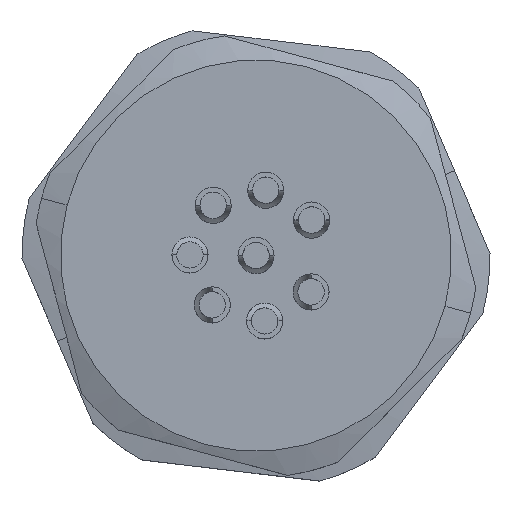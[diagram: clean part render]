
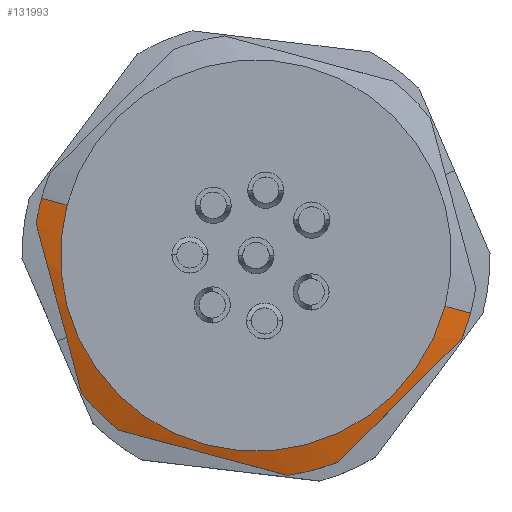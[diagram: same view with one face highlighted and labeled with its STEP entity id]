
A CAD part, top view. The second image highlights one B-rep face of the part: STEP entity #131993.
In plain terms, the highlighted conical face has half-angle 70 degrees and reference radius 9.25 mm.
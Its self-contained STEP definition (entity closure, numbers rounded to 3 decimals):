
#4564 = CARTESIAN_POINT ( 'NONE',  ( 0.41, 9.4, -0.225 ) ) ;
#6446 = CARTESIAN_POINT ( 'NONE',  ( 18.185, 6.856, -0.4 ) ) ;
#9441 = DIRECTION ( 'NONE',  ( 0., 0., -1. ) ) ;
#9458 = DIRECTION ( 'NONE',  ( -0.966, 0.259, 0. ) ) ;
#11381 = LINE ( 'NONE', #248910, #112795 ) ;
#11512 = B_SPLINE_CURVE_WITH_KNOTS ( 'NONE', 3,
 ( #250890, #28041, #49335, #141538, #190094 ),
 .UNSPECIFIED., .F., .F.,
 ( 4, 1, 4 ),
 ( 0., 0.004, 0.007 ),
 .UNSPECIFIED. ) ;
#28041 = CARTESIAN_POINT ( 'NONE',  ( 13.54, 1.52, -0.225 ) ) ;
#30860 = CARTESIAN_POINT ( 'NONE',  ( 0.095, 10.574, -0.4 ) ) ;
#31753 = DIRECTION ( 'NONE',  ( 0.908, -0.243, -0.342 ) ) ;
#33636 = EDGE_LOOP ( 'NONE', ( #78379, #95884, #137025, #137950, #94376, #92648, #153563, #67556, #57737, #236737 ) ) ;
#35326 = CARTESIAN_POINT ( 'NONE',  ( 8.231, 0.723, -0.127 ) ) ;
#35675 = CARTESIAN_POINT ( 'NONE',  ( 9.25, 9.25, 0. ) ) ;
#38883 = CARTESIAN_POINT ( 'NONE',  ( 17.84, 5.82, -0.4 ) ) ;
#39329 = CARTESIAN_POINT ( 'NONE',  ( 9.25, 9.25, -0.4 ) ) ;
#39941 = VERTEX_POINT ( 'NONE', #59843 ) ;
#49335 = CARTESIAN_POINT ( 'NONE',  ( 15.26, 3.24, -0.029 ) ) ;
#57737 = ORIENTED_EDGE ( 'NONE', *, *, #243290, .T. ) ;
#59608 = CARTESIAN_POINT ( 'NONE',  ( 4.695, 1.671, -0.226 ) ) ;
#59843 = CARTESIAN_POINT ( 'NONE',  ( 1.377, 11.36, 0. ) ) ;
#61593 = CARTESIAN_POINT ( 'NONE',  ( 10.574, 0.095, -0.4 ) ) ;
#67556 = ORIENTED_EDGE ( 'NONE', *, *, #119165, .T. ) ;
#72499 = CARTESIAN_POINT ( 'NONE',  ( 18.185, 6.856, -0.4 ) ) ;
#73370 = AXIS2_PLACEMENT_3D ( 'NONE', #175835, #172895, #291208 ) ;
#73911 = EDGE_CURVE ( 'NONE', #142628, #157995, #152717, .T. ) ;
#77452 = CARTESIAN_POINT ( 'NONE',  ( 1.984, 3.526, -0.4 ) ) ;
#78379 = ORIENTED_EDGE ( 'NONE', *, *, #264183, .F. ) ;
#81284 = CARTESIAN_POINT ( 'NONE',  ( 9.25, 9.25, -0.4 ) ) ;
#82920 = CARTESIAN_POINT ( 'NONE',  ( 9.406, 0.408, -0.226 ) ) ;
#84963 = DIRECTION ( 'NONE',  ( 0.259, 0.966, 0. ) ) ;
#89606 = CARTESIAN_POINT ( 'NONE',  ( 17.123, 7.14, 0. ) ) ;
#89615 = CARTESIAN_POINT ( 'NONE',  ( 0.095, 10.574, -0.4 ) ) ;
#92648 = ORIENTED_EDGE ( 'NONE', *, *, #240692, .T. ) ;
#94376 = ORIENTED_EDGE ( 'NONE', *, *, #73911, .T. ) ;
#94681 = AXIS2_PLACEMENT_3D ( 'NONE', #81284, #9441, #194771 ) ;
#95884 = ORIENTED_EDGE ( 'NONE', *, *, #300157, .F. ) ;
#101505 = VECTOR ( 'NONE', #31753, 1000. ) ;
#104017 = DIRECTION ( 'NONE',  ( 0.259, 0.966, 0. ) ) ;
#104477 = B_SPLINE_CURVE_WITH_KNOTS ( 'NONE', 3,
 ( #177083, #59608, #242907, #35326, #82920, #61593 ),
 .UNSPECIFIED., .F., .F.,
 ( 4, 2, 4 ),
 ( -0.004, 0., 0.004 ),
 .UNSPECIFIED. ) ;
#108761 = CARTESIAN_POINT ( 'NONE',  ( 1.984, 3.526, -0.4 ) ) ;
#112795 = VECTOR ( 'NONE', #226650, 1000. ) ;
#119165 = EDGE_CURVE ( 'NONE', #249147, #220740, #207713, .T. ) ;
#125318 = CARTESIAN_POINT ( 'NONE',  ( 9.25, 9.25, -0.4 ) ) ;
#131993 = ADVANCED_FACE ( 'NONE', ( #272785 ), #196733, .T. ) ;
#137025 = ORIENTED_EDGE ( 'NONE', *, *, #240292, .T. ) ;
#137950 = ORIENTED_EDGE ( 'NONE', *, *, #151564, .T. ) ;
#141538 = CARTESIAN_POINT ( 'NONE',  ( 16.98, 4.96, -0.225 ) ) ;
#142628 = VERTEX_POINT ( 'NONE', #89615 ) ;
#148349 = AXIS2_PLACEMENT_3D ( 'NONE', #35675, #241298, #9458 ) ;
#151564 = EDGE_CURVE ( 'NONE', #280061, #142628, #275974, .T. ) ;
#152717 = B_SPLINE_CURVE_WITH_KNOTS ( 'NONE', 3,
 ( #30860, #4564, #285993, #284987, #77452 ),
 .UNSPECIFIED., .F., .F.,
 ( 4, 1, 4 ),
 ( 0., 0.004, 0.007 ),
 .UNSPECIFIED. ) ;
#153563 = ORIENTED_EDGE ( 'NONE', *, *, #212837, .T. ) ;
#157995 = VERTEX_POINT ( 'NONE', #108761 ) ;
#165198 = AXIS2_PLACEMENT_3D ( 'NONE', #39329, #202397, #84963 ) ;
#172895 = DIRECTION ( 'NONE',  ( 0., 0., 1. ) ) ;
#173721 = CARTESIAN_POINT ( 'NONE',  ( 0.315, 11.644, -0.4 ) ) ;
#175835 = CARTESIAN_POINT ( 'NONE',  ( 9.25, 9.25, -0.4 ) ) ;
#177083 = CARTESIAN_POINT ( 'NONE',  ( 3.526, 1.984, -0.4 ) ) ;
#184671 = AXIS2_PLACEMENT_3D ( 'NONE', #195460, #240981, #197431 ) ;
#184831 = LINE ( 'NONE', #6446, #101505 ) ;
#185117 = CIRCLE ( 'NONE', #165198, 9.25 ) ;
#190094 = CARTESIAN_POINT ( 'NONE',  ( 17.84, 5.82, -0.4 ) ) ;
#193644 = VERTEX_POINT ( 'NONE', #250767 ) ;
#194771 = DIRECTION ( 'NONE',  ( -0.966, 0.259, 0. ) ) ;
#194911 = VERTEX_POINT ( 'NONE', #72499 ) ;
#195460 = CARTESIAN_POINT ( 'NONE',  ( 9.25, 9.25, -0.4 ) ) ;
#196733 = CONICAL_SURFACE ( 'NONE', #94681, 9.25, 1.222 ) ;
#197342 = CIRCLE ( 'NONE', #148349, 8.151 ) ;
#197431 = DIRECTION ( 'NONE',  ( 0.966, -0.259, 0. ) ) ;
#202397 = DIRECTION ( 'NONE',  ( 0., 0., 1. ) ) ;
#207713 = CIRCLE ( 'NONE', #73370, 9.25 ) ;
#210695 = CIRCLE ( 'NONE', #184671, 9.25 ) ;
#212837 = EDGE_CURVE ( 'NONE', #193644, #249147, #104477, .T. ) ;
#216295 = CARTESIAN_POINT ( 'NONE',  ( 12.68, 0.66, -0.4 ) ) ;
#220740 = VERTEX_POINT ( 'NONE', #216295 ) ;
#226650 = DIRECTION ( 'NONE',  ( -0.908, 0.243, -0.342 ) ) ;
#236737 = ORIENTED_EDGE ( 'NONE', *, *, #237078, .F. ) ;
#237078 = EDGE_CURVE ( 'NONE', #194911, #282330, #210695, .T. ) ;
#240292 = EDGE_CURVE ( 'NONE', #39941, #280061, #11381, .T. ) ;
#240692 = EDGE_CURVE ( 'NONE', #157995, #193644, #185117, .T. ) ;
#240981 = DIRECTION ( 'NONE',  ( 0., 0., -1. ) ) ;
#241298 = DIRECTION ( 'NONE',  ( 0., 0., 1. ) ) ;
#242907 = CARTESIAN_POINT ( 'NONE',  ( 5.869, 1.356, -0.127 ) ) ;
#243290 = EDGE_CURVE ( 'NONE', #220740, #282330, #11512, .T. ) ;
#248910 = CARTESIAN_POINT ( 'NONE',  ( 0.315, 11.644, -0.4 ) ) ;
#249147 = VERTEX_POINT ( 'NONE', #266876 ) ;
#250331 = VERTEX_POINT ( 'NONE', #89606 ) ;
#250767 = CARTESIAN_POINT ( 'NONE',  ( 3.526, 1.984, -0.4 ) ) ;
#250890 = CARTESIAN_POINT ( 'NONE',  ( 12.68, 0.66, -0.4 ) ) ;
#264183 = EDGE_CURVE ( 'NONE', #250331, #194911, #184831, .T. ) ;
#266876 = CARTESIAN_POINT ( 'NONE',  ( 10.574, 0.095, -0.4 ) ) ;
#272785 = FACE_OUTER_BOUND ( 'NONE', #33636, .T. ) ;
#275974 = CIRCLE ( 'NONE', #284922, 9.25 ) ;
#280061 = VERTEX_POINT ( 'NONE', #173721 ) ;
#282330 = VERTEX_POINT ( 'NONE', #38883 ) ;
#284922 = AXIS2_PLACEMENT_3D ( 'NONE', #125318, #287261, #104017 ) ;
#284987 = CARTESIAN_POINT ( 'NONE',  ( 1.669, 4.701, -0.225 ) ) ;
#285993 = CARTESIAN_POINT ( 'NONE',  ( 1.04, 7.05, -0.029 ) ) ;
#287261 = DIRECTION ( 'NONE',  ( 0., 0., 1. ) ) ;
#291208 = DIRECTION ( 'NONE',  ( 0.259, 0.966, 0. ) ) ;
#300157 = EDGE_CURVE ( 'NONE', #39941, #250331, #197342, .T. ) ;
